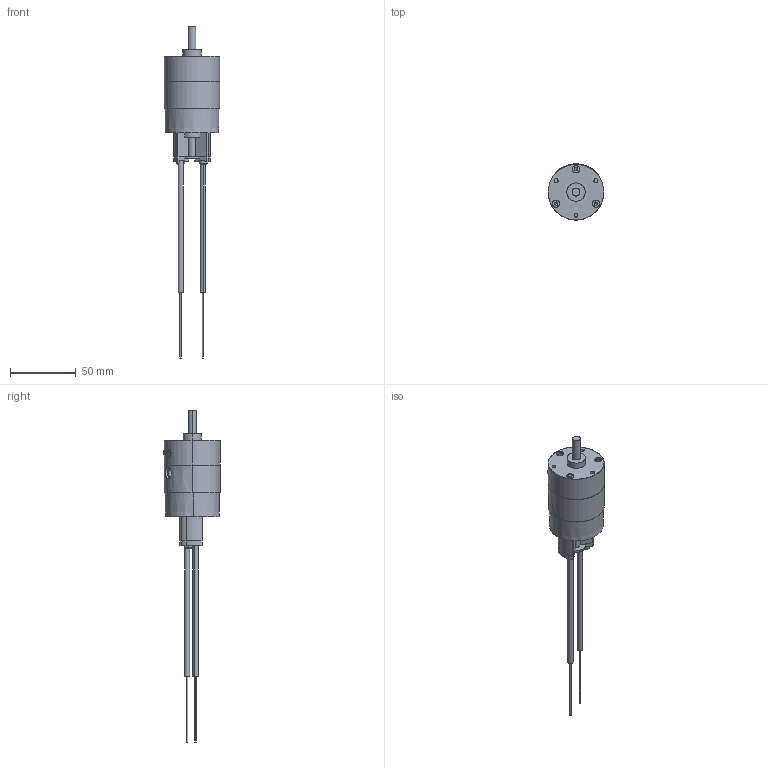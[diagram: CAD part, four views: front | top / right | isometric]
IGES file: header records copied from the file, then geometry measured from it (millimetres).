
Start section: SolidWorks IGES file using analytic representation for surfaces
Global section: file name: C:\Users\Chieh_Lu\Dropbox\¤u§@«Ç\PRO\PROA10S\PROA10S-#-#\PROA10S-#-#-#-FR.IGS; native system: SolidWorks 2014; preprocessor: SolidWorks 2014; author: Chieh_Lu; date: 150731.005914; units: millimetre
Bounding box: 42.5 x 42.8 x 252.7 mm (x, y, z)
Surface area: 31905.6 mm2 (no closed solid volume)
Topology: 0 solids, 0 shells, 522 faces, 7702 edges, 7692 vertices
Faces by surface type: revolution 270, bspline 252
